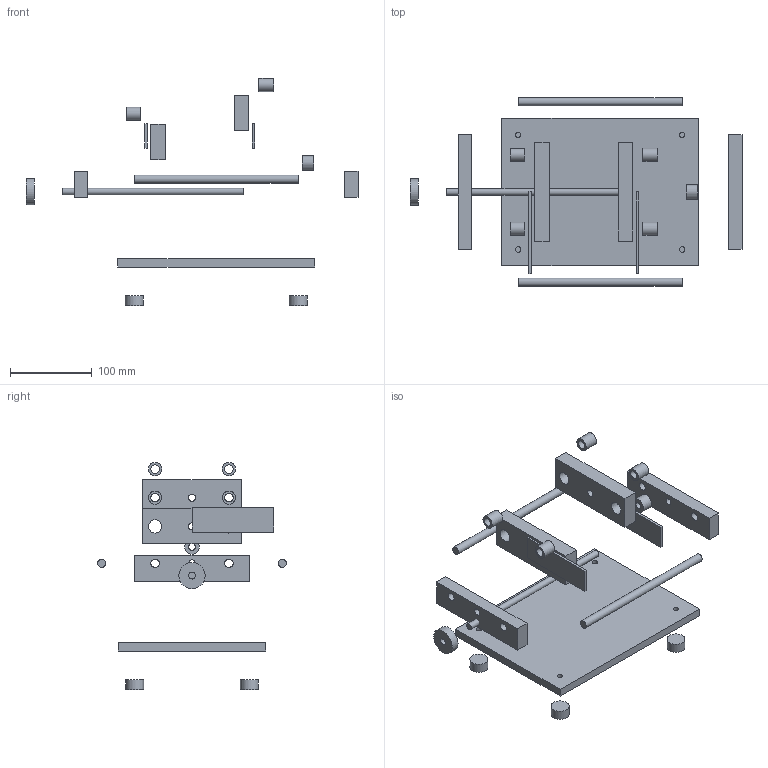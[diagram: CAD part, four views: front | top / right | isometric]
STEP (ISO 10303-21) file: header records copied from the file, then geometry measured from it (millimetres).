
FILE_DESCRIPTION(('Open CASCADE Model'),'2;1');
FILE_NAME('inspection-fixture_exploded','2026-10-03T09:08:36',('Author') ,('Open CASCADE'),'Open CASCADE STEP processor 7.9','build123d', 'Unknown');
FILE_SCHEMA(('AUTOMOTIVE_DESIGN { 1 0 10303 214 1 1 1 1 }'));
Length unit declared in the file: millimetre
Products named in the file (21): inspection-fixture_exploded; F01; F02_1; F02_2; F02_3; F02_4; F03_1; F03_2; F04_1; F04_2; F05_1; F06_1_1; F06_1_2; F07_1; F05_2; F06_2_1; F06_2_2; F07_2; F08; F09; F10
Assembly tree (20 placements, depth 2):
  inspection-fixture_exploded
    F01
    F02_1
    F02_2
    F02_3
    F02_4
    F03_1
    F03_2
    F04_1
    F04_2
    F05_1
    F06_1_1
    F06_1_2
    F07_1
    F05_2
    F06_2_1
    F06_2_2
    F07_2
    F08
    F09
    F10
Bounding box: 405 x 230 x 277 mm (x, y, z)
Volume: 833069.6 mm3; surface area: 211097.9 mm2
Topology: 20 solids, 20 shells, 103 faces, 189 edges, 126 vertices
Faces by surface type: plane 68, cylinder 35
Full cylindrical faces by diameter (mm): 6.6 x4, 8 x1, 8.4 x4, 8.6 x2, 10 x2, 10.3 x4, 10.4 x4, 16 x4, 16.2 x4, 18 x1, 22 x4, 32 x1
Entity records: 5819 total; most frequent: DIRECTION 885, CARTESIAN_POINT 817, LINE 427, VECTOR 427, ORIENTED_EDGE 378, PCURVE 378, DEFINITIONAL_REPRESENTATION 378, AXIS2_PLACEMENT_3D 194
